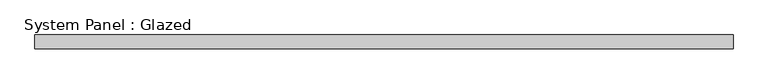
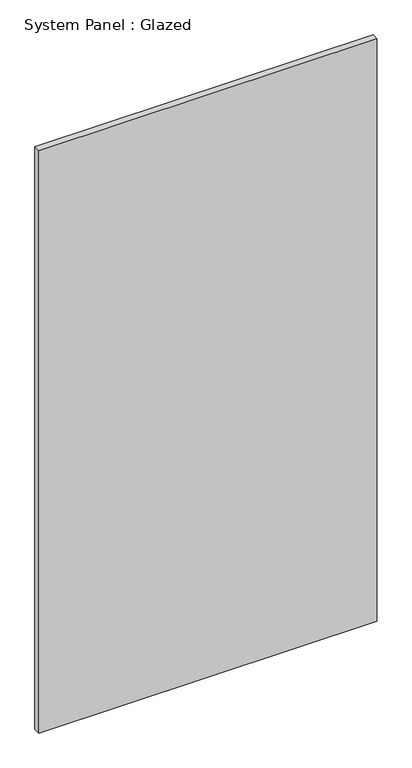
"""IFC4 building model written with IfcOpenShell, lengths in millimetres: plate geometry, System Panel : Glazed."""

from ifc_helpers import new_model, si_unit, origin, origin_with_axes, place, context, project, spatial, polyline, outline, extrude, source, transform, mapped, element, save


def system_panel_glazed_e00e6230(model_context):
    return source(origin(), model_context, "Body", "SweptSolid", [
        extrude(outline(polyline([(652.3750001, 19.05), (-652.3750001, 19.05), (-652.3750001, 44.45), (652.3750001, 44.45), (652.3750001, 19.05)])), origin_with_axes(), (0.0, 0.0, 1.0), 2374.9),
    ])


if __name__ == "__main__":
    model = new_model("IFC4")
    model_context = context("Model", 3, world=origin())
    ifc_project = project(units=[si_unit("LENGTHUNIT", "METRE", prefix="MILLI")], contexts=[model_context])
    site = spatial("IfcSite", under=ifc_project)
    building = spatial("IfcBuilding", under=site)
    placement = place(None, origin())
    system_panel_glazed_shape = system_panel_glazed_e00e6230(model_context)
    element("IfcPlate", 1, ObjectType="System Panel : Glazed", at=placement, inside=building, context=model_context, shape_type="MappedRepresentation", body=[
        mapped(system_panel_glazed_shape, transform((0.0, 0.0, 0.0), x_axis=(1.0, 0.0, 0.0), y_axis=(0.0, 1.0, 0.0), z_axis=(0.0, 0.0, 1.0))),
    ])
    save(model, "model.ifc")
